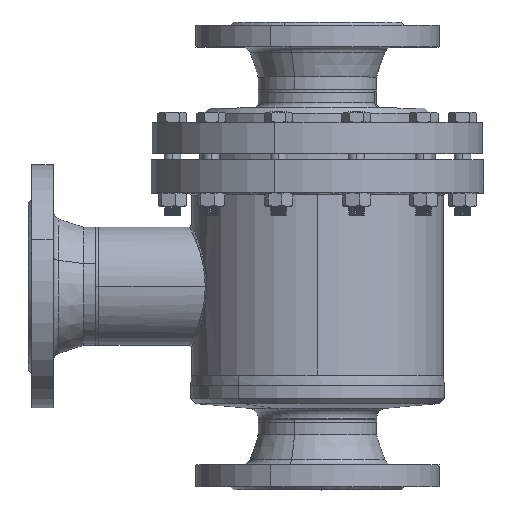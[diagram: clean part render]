
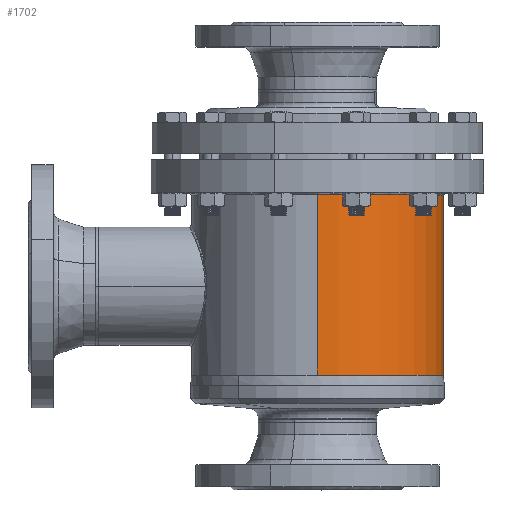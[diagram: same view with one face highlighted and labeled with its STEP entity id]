
A CAD part, top view. The second image highlights one B-rep face of the part: STEP entity #1702.
In plain terms, the highlighted cylindrical face has radius 121.5 mm (diameter 243 mm), a partial arc.
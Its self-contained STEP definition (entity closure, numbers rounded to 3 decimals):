
#219 = ORIENTED_EDGE ( 'NONE', *, *, #35202, .T. ) ;
#33332 = ORIENTED_EDGE ( 'NONE', *, *, #32616, .T. ) ;
#1233 = EDGE_LOOP ( 'NONE', ( #219, #33332, #31181, #11692 ) ) ;
#34338 = VERTEX_POINT ( 'NONE', #23223 ) ;
#1702 = ADVANCED_FACE ( 'NONE', ( #23674 ), #23675, .T. ) ;
#34770 = VERTEX_POINT ( 'NONE', #24243 ) ;
#35202 = EDGE_CURVE ( 'NONE', #34770, #34338, #2865, .T. ) ;
#19200 = CARTESIAN_POINT ( 'NONE',  ( 0., 117.506, -121.5 ) ) ;
#2865 = CIRCLE ( 'NONE', #2866, 121.5 ) ;
#2866 = AXIS2_PLACEMENT_3D ( 'NONE', #2867, #2868, #2869 ) ;
#2867 = CARTESIAN_POINT ( 'NONE',  ( 0., -58.337, 0. ) ) ;
#2868 = DIRECTION ( 'NONE',  ( 0., 1., 0. ) ) ;
#2869 = DIRECTION ( 'NONE',  ( 0., 0., 1. ) ) ;
#19991 = LINE ( 'NONE', #19992, #19993 ) ;
#19992 = CARTESIAN_POINT ( 'NONE',  ( 0., 45.442, -121.5 ) ) ;
#19993 = VECTOR ( 'NONE', #19994, 1000. ) ;
#19994 = DIRECTION ( 'NONE',  ( 0., 1., 0. ) ) ;
#23223 = CARTESIAN_POINT ( 'NONE',  ( 0., -58.337, -121.5 ) ) ;
#23674 = FACE_OUTER_BOUND ( 'NONE', #1233, .T. ) ;
#23675 = CYLINDRICAL_SURFACE ( 'NONE', #23676, 121.5 ) ;
#23676 = AXIS2_PLACEMENT_3D ( 'NONE', #23677, #23678, #23679 ) ;
#23677 = CARTESIAN_POINT ( 'NONE',  ( 0., 45.442, 0. ) ) ;
#23678 = DIRECTION ( 'NONE',  ( 0., 1., 0. ) ) ;
#23679 = DIRECTION ( 'NONE',  ( 0., 0., 1. ) ) ;
#24243 = CARTESIAN_POINT ( 'NONE',  ( 0., -58.337, 121.5 ) ) ;
#10973 = EDGE_CURVE ( 'NONE', #34770, #30203, #31581, .T. ) ;
#11692 = ORIENTED_EDGE ( 'NONE', *, *, #10973, .F. ) ;
#30203 = VERTEX_POINT ( 'NONE', #16159 ) ;
#30459 = EDGE_CURVE ( 'NONE', #30203, #32186, #16315, .T. ) ;
#31181 = ORIENTED_EDGE ( 'NONE', *, *, #30459, .F. ) ;
#31581 = LINE ( 'NONE', #31582, #31583 ) ;
#31582 = CARTESIAN_POINT ( 'NONE',  ( 0., 45.442, 121.5 ) ) ;
#31583 = VECTOR ( 'NONE', #31584, 1000. ) ;
#31584 = DIRECTION ( 'NONE',  ( 0., 1., 0. ) ) ;
#32186 = VERTEX_POINT ( 'NONE', #19200 ) ;
#16159 = CARTESIAN_POINT ( 'NONE',  ( 0., 117.506, 121.5 ) ) ;
#32616 = EDGE_CURVE ( 'NONE', #34338, #32186, #19991, .T. ) ;
#16315 = CIRCLE ( 'NONE', #16316, 121.5 ) ;
#16316 = AXIS2_PLACEMENT_3D ( 'NONE', #16317, #16318, #16319 ) ;
#16317 = CARTESIAN_POINT ( 'NONE',  ( 0., 117.506, 0. ) ) ;
#16318 = DIRECTION ( 'NONE',  ( 0., 1., 0. ) ) ;
#16319 = DIRECTION ( 'NONE',  ( 0., 0., 1. ) ) ;
